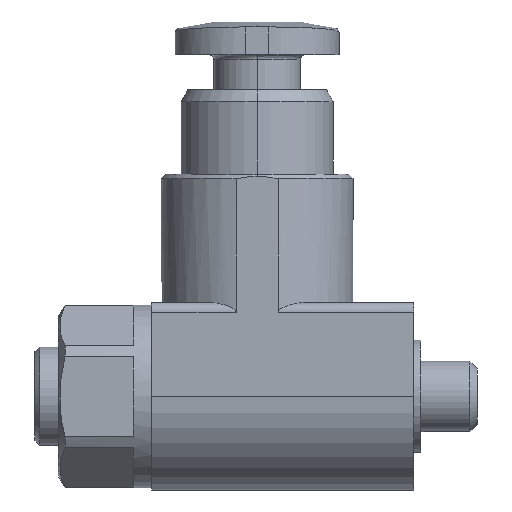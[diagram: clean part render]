
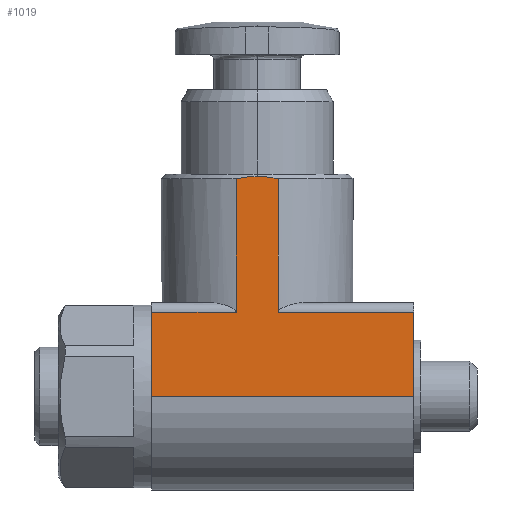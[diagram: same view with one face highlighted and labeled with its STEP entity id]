
A CAD part, left-side view. The second image highlights one B-rep face of the part: STEP entity #1019.
In plain terms, the highlighted planar face has unit normal (-1, 0, 0).
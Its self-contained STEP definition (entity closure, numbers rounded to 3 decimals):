
#39 = CARTESIAN_POINT ( 'NONE',  ( -4., 7.602, 9.365 ) ) ;
#64 = DIRECTION ( 'NONE',  ( 1., 0., 0. ) ) ;
#84 = CARTESIAN_POINT ( 'NONE',  ( -4., 6.1, 0. ) ) ;
#205 = ORIENTED_EDGE ( 'NONE', *, *, #775, .F. ) ;
#282 = CARTESIAN_POINT ( 'NONE',  ( -4., 7., 9.4 ) ) ;
#285 = EDGE_CURVE ( 'NONE', #1042, #570, #2008, .T. ) ;
#330 = EDGE_LOOP ( 'NONE', ( #565, #2445, #1404, #1287, #205, #2287, #1390, #2681, #2399 ) ) ;
#416 = EDGE_CURVE ( 'NONE', #1009, #1042, #2738, .T. ) ;
#468 = EDGE_CURVE ( 'NONE', #1995, #2917, #1990, .T. ) ;
#521 = CARTESIAN_POINT ( 'NONE',  ( -4., 11.5, 3.6 ) ) ;
#523 = FACE_OUTER_BOUND ( 'NONE', #330, .T. ) ;
#565 = ORIENTED_EDGE ( 'NONE', *, *, #2101, .F. ) ;
#570 = VERTEX_POINT ( 'NONE', #1026 ) ;
#594 = VECTOR ( 'NONE', #1441, 1000. ) ;
#643 = CARTESIAN_POINT ( 'NONE',  ( -4., 6.1, 9.3 ) ) ;
#663 = CARTESIAN_POINT ( 'NONE',  ( -4., 6.396, 9.365 ) ) ;
#666 = CARTESIAN_POINT ( 'NONE',  ( -4., 11.5, 0. ) ) ;
#775 = EDGE_CURVE ( 'NONE', #2280, #1009, #1036, .T. ) ;
#778 = CARTESIAN_POINT ( 'NONE',  ( -4., 7., 9.4 ) ) ;
#821 = CARTESIAN_POINT ( 'NONE',  ( -4., 6.699, 9.4 ) ) ;
#833 = EDGE_CURVE ( 'NONE', #570, #866, #1267, .T. ) ;
#866 = VERTEX_POINT ( 'NONE', #2494 ) ;
#887 = VECTOR ( 'NONE', #2227, 1000. ) ;
#898 = DIRECTION ( 'NONE',  ( 0., 1., 0. ) ) ;
#965 = CARTESIAN_POINT ( 'NONE',  ( -4., 6.1, 3.6 ) ) ;
#1009 = VERTEX_POINT ( 'NONE', #2705 ) ;
#1019 = ADVANCED_FACE ( 'NONE', ( #523 ), #2225, .F. ) ;
#1026 = CARTESIAN_POINT ( 'NONE',  ( -4., 7., 9.4 ) ) ;
#1036 = LINE ( 'NONE', #1513, #887 ) ;
#1042 = VERTEX_POINT ( 'NONE', #2295 ) ;
#1107 = EDGE_CURVE ( 'NONE', #2248, #1951, #1582, .T. ) ;
#1181 = CARTESIAN_POINT ( 'NONE',  ( -4., 7.9, 9.3 ) ) ;
#1194 = CARTESIAN_POINT ( 'NONE',  ( -4., 0.3, 0. ) ) ;
#1215 = CARTESIAN_POINT ( 'NONE',  ( -4., 11.5, 0. ) ) ;
#1267 = B_SPLINE_CURVE_WITH_KNOTS ( 'NONE', 3,
 ( #778, #821, #663, #643 ),
 .UNSPECIFIED., .F., .F.,
 ( 4, 4 ),
 ( 0.001, 0.002 ),
 .UNSPECIFIED. ) ;
#1269 = CARTESIAN_POINT ( 'NONE',  ( -4., 0.3, 0. ) ) ;
#1270 = CARTESIAN_POINT ( 'NONE',  ( -4., 11.5, 3.6 ) ) ;
#1287 = ORIENTED_EDGE ( 'NONE', *, *, #416, .F. ) ;
#1313 = CARTESIAN_POINT ( 'NONE',  ( -4., 7.9, 0. ) ) ;
#1315 = EDGE_CURVE ( 'NONE', #2917, #2248, #2159, .T. ) ;
#1338 = CARTESIAN_POINT ( 'NONE',  ( -4., 11.5, 0. ) ) ;
#1381 = LINE ( 'NONE', #521, #1986 ) ;
#1382 = VECTOR ( 'NONE', #1564, 1000. ) ;
#1390 = ORIENTED_EDGE ( 'NONE', *, *, #1107, .F. ) ;
#1404 = ORIENTED_EDGE ( 'NONE', *, *, #285, .F. ) ;
#1441 = DIRECTION ( 'NONE',  ( 0., 0., -1. ) ) ;
#1502 = DIRECTION ( 'NONE',  ( 0., 0., -1. ) ) ;
#1513 = CARTESIAN_POINT ( 'NONE',  ( -4., 11.5, 3.6 ) ) ;
#1564 = DIRECTION ( 'NONE',  ( 0., -1., 0. ) ) ;
#1582 = LINE ( 'NONE', #666, #2595 ) ;
#1613 = VECTOR ( 'NONE', #1502, 1000. ) ;
#1635 = CARTESIAN_POINT ( 'NONE',  ( -4., 7.302, 9.4 ) ) ;
#1787 = LINE ( 'NONE', #84, #594 ) ;
#1857 = CARTESIAN_POINT ( 'NONE',  ( -4., 11.5, 3.6 ) ) ;
#1883 = DIRECTION ( 'NONE',  ( 0., 0., 1. ) ) ;
#1951 = VERTEX_POINT ( 'NONE', #1215 ) ;
#1986 = VECTOR ( 'NONE', #1883, 1000. ) ;
#1990 = LINE ( 'NONE', #1857, #1382 ) ;
#1995 = VERTEX_POINT ( 'NONE', #965 ) ;
#2008 = B_SPLINE_CURVE_WITH_KNOTS ( 'NONE', 3,
 ( #1181, #39, #1635, #282 ),
 .UNSPECIFIED., .F., .F.,
 ( 4, 4 ),
 ( 0., 0.001 ),
 .UNSPECIFIED. ) ;
#2036 = DIRECTION ( 'NONE',  ( 0., 0., 1. ) ) ;
#2050 = VECTOR ( 'NONE', #2036, 1000. ) ;
#2101 = EDGE_CURVE ( 'NONE', #866, #1995, #1787, .T. ) ;
#2159 = LINE ( 'NONE', #1269, #1613 ) ;
#2225 = PLANE ( 'NONE',  #2804 ) ;
#2227 = DIRECTION ( 'NONE',  ( 0., -1., 0. ) ) ;
#2248 = VERTEX_POINT ( 'NONE', #1194 ) ;
#2280 = VERTEX_POINT ( 'NONE', #1270 ) ;
#2287 = ORIENTED_EDGE ( 'NONE', *, *, #2686, .F. ) ;
#2295 = CARTESIAN_POINT ( 'NONE',  ( -4., 7.9, 9.3 ) ) ;
#2399 = ORIENTED_EDGE ( 'NONE', *, *, #468, .F. ) ;
#2445 = ORIENTED_EDGE ( 'NONE', *, *, #833, .F. ) ;
#2494 = CARTESIAN_POINT ( 'NONE',  ( -4., 6.1, 9.3 ) ) ;
#2595 = VECTOR ( 'NONE', #898, 1000. ) ;
#2646 = DIRECTION ( 'NONE',  ( 0., 0., -1. ) ) ;
#2681 = ORIENTED_EDGE ( 'NONE', *, *, #1315, .F. ) ;
#2686 = EDGE_CURVE ( 'NONE', #1951, #2280, #1381, .T. ) ;
#2705 = CARTESIAN_POINT ( 'NONE',  ( -4., 7.9, 3.6 ) ) ;
#2738 = LINE ( 'NONE', #1313, #2050 ) ;
#2739 = CARTESIAN_POINT ( 'NONE',  ( -4., 0.3, 3.6 ) ) ;
#2804 = AXIS2_PLACEMENT_3D ( 'NONE', #1338, #64, #2646 ) ;
#2917 = VERTEX_POINT ( 'NONE', #2739 ) ;
